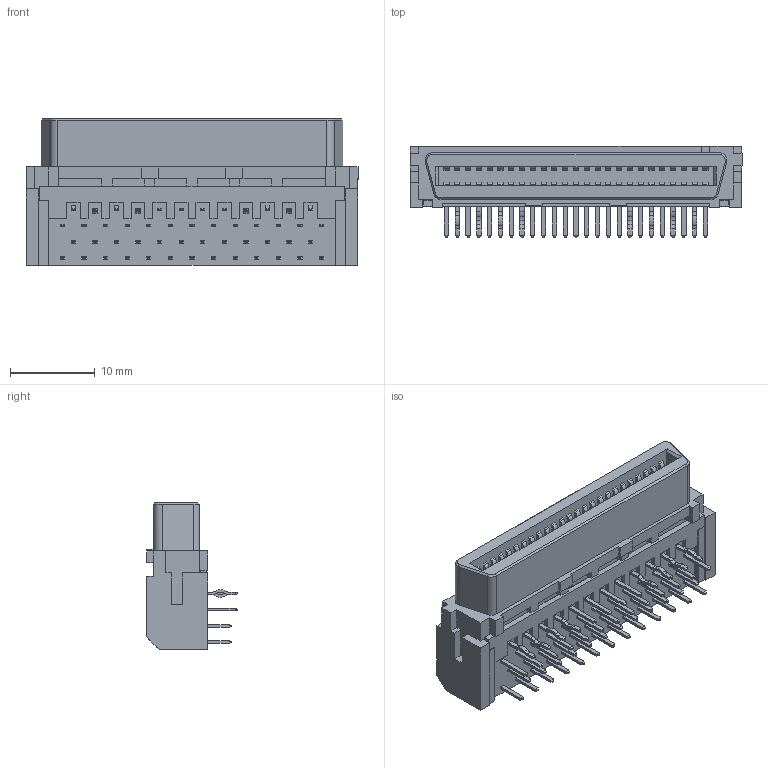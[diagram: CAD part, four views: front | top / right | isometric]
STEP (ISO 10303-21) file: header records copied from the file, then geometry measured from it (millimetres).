
FILE_DESCRIPTION (( 'STEP AP203' ), '1' );
FILE_NAME ('DHB-RA50-R13NNX-FA.STEP', '2022-04-12T23:58:39', ( '' ), ( '' ), 'SwSTEP 2.0', 'SolidWorks 2018', '' );
FILE_SCHEMA (( 'CONFIG_CONTROL_DESIGN' ));
Length unit declared in the file: millimetre
Products named in the file (1): DHB-RA50-R13NNX-FA
Bounding box: 39.08 x 10.7 x 17.3 mm (x, y, z)
Volume: 2324.1 mm3; surface area: 3701.8 mm2
Topology: 1 solids, 1 shells, 1521 faces, 4509 edges, 3002 vertices
Faces by surface type: plane 1172, cylinder 344, cone 5
Entity records: 50832 total; most frequent: CARTESIAN_POINT 9483, ORIENTED_EDGE 9018, DIRECTION 7947, EDGE_CURVE 4509, LINE 3815, VECTOR 3815, VERTEX_POINT 3002, AXIS2_PLACEMENT_3D 2066
